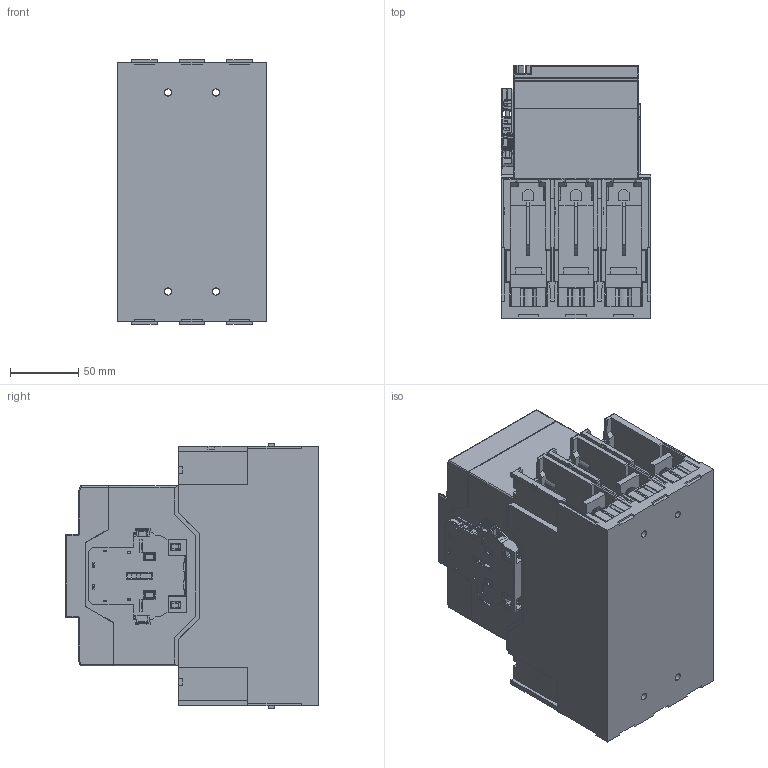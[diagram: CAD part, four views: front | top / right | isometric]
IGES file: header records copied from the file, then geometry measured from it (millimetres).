
Start section: SolidWorks IGES file using analytic representation for surfaces
Global section: file name: \\Brjgs100\dfsweg\GROUPS\BR_SC_JGS_WA_TECNICO\ENG\Usuarios\Rodrigob\Modelos3D\Contatores e Partida de Motores\Contatores\CWB225.11-RT\CWB225.11-RT.IGS; native system: SolidWorks 2022; preprocessor: SolidWorks 2022; author: rodrigob; date: 230925.161907; units: millimetre
Bounding box: 110 x 185.55 x 194 mm (x, y, z)
Surface area: 374698.7 mm2 (no closed solid volume)
Topology: 0 solids, 0 shells, 4898 faces, 37850 edges, 37707 vertices
Faces by surface type: bspline 3635, revolution 1263
